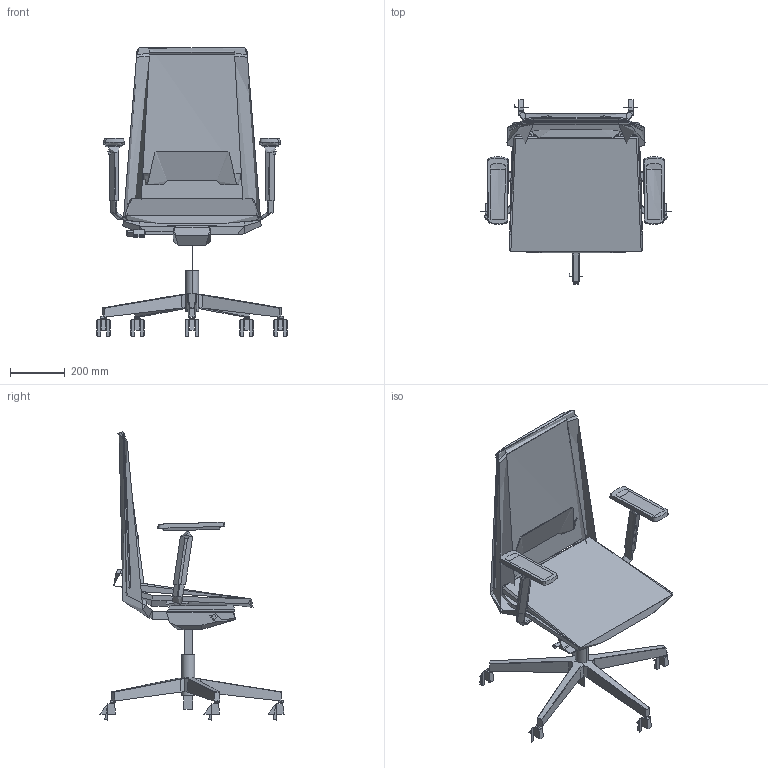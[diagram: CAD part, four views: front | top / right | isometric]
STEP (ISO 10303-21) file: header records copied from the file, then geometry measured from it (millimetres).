
FILE_DESCRIPTION(/* description */ (''),/* implementation_level */ '2;1');
FILE_NAME(/* name */ 'LOOK27~2',/* time_stamp */ '2015-09-18T14:17:42+02:00',/* author */ (''),/* organization */ (''),/* preprocessor_version */ 'ST-DEVELOPER v15',/* originating_system */ '',/* authorisation */ '');
FILE_SCHEMA (('AUTOMOTIVE_DESIGN'));
Length unit declared in the file: millimetre
Products named in the file (1): Document
Bounding box: 694.82 x 671.18 x 1050.53 mm (x, y, z)
Volume: 6078696.5 mm3; surface area: 2149203.2 mm2
Topology: 15 solids, 62 shells, 449 faces, 1108 edges, 697 vertices
Faces by surface type: bspline 324, plane 125
Entity records: 35494 total; most frequent: CARTESIAN_POINT 28578, ORIENTED_EDGE 1930, EDGE_CURVE 1089, VERTEX_POINT 693, B_SPLINE_CURVE_WITH_KNOTS 603, EDGE_LOOP 453, ADVANCED_FACE 449, FACE_OUTER_BOUND 449
